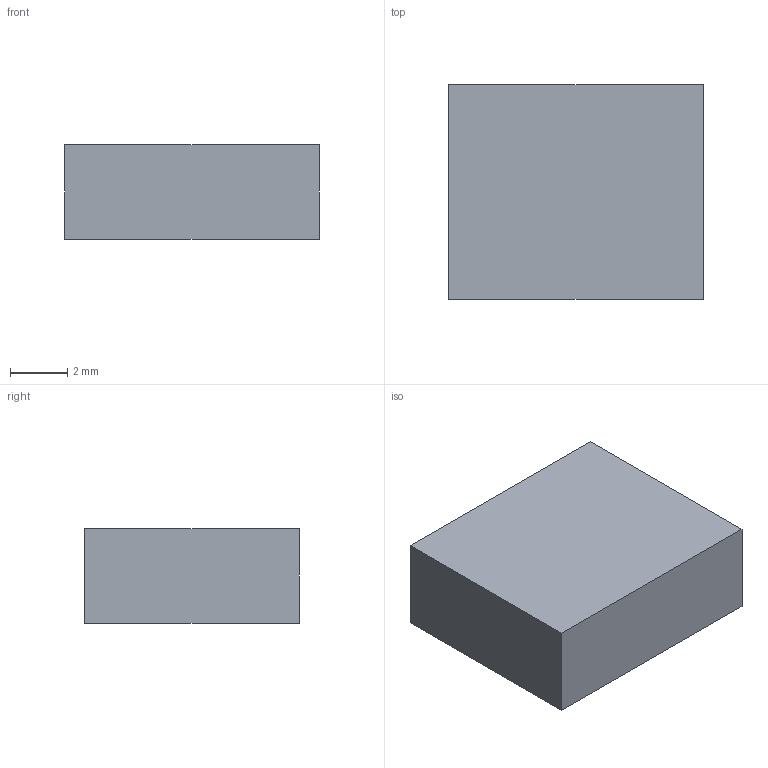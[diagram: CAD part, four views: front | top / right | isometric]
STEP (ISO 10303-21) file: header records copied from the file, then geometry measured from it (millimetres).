
FILE_DESCRIPTION(('Open CASCADE Model'),'2;1');
FILE_NAME('Open CASCADE Shape Model','2026-10-01T12:35:22',('Author'),( 'Open CASCADE'),'Open CASCADE STEP processor 7.8','Open CASCADE 7.8' ,'Unknown');
FILE_SCHEMA(('AUTOMOTIVE_DESIGN { 1 0 10303 214 1 1 1 1 }'));
Length unit declared in the file: millimetre
Products named in the file (2): E13_USBC_socket_provisional; E13_USBC_socket_provisional_solid
Assembly tree (1 placements, depth 2):
  E13_USBC_socket_provisional
    E13_USBC_socket_provisional_solid
Bounding box: 8.9 x 7.5 x 3.3 mm (x, y, z)
Volume: 191.4 mm3; surface area: 277.1 mm2
Topology: 1 solids, 1 shells, 15 faces, 36 edges, 24 vertices
Faces by surface type: plane 11, cylinder 4
Entity records: 941 total; most frequent: CARTESIAN_POINT 169, DIRECTION 140, LINE 84, VECTOR 84, ORIENTED_EDGE 72, PCURVE 72, DEFINITIONAL_REPRESENTATION 72, EDGE_CURVE 36
